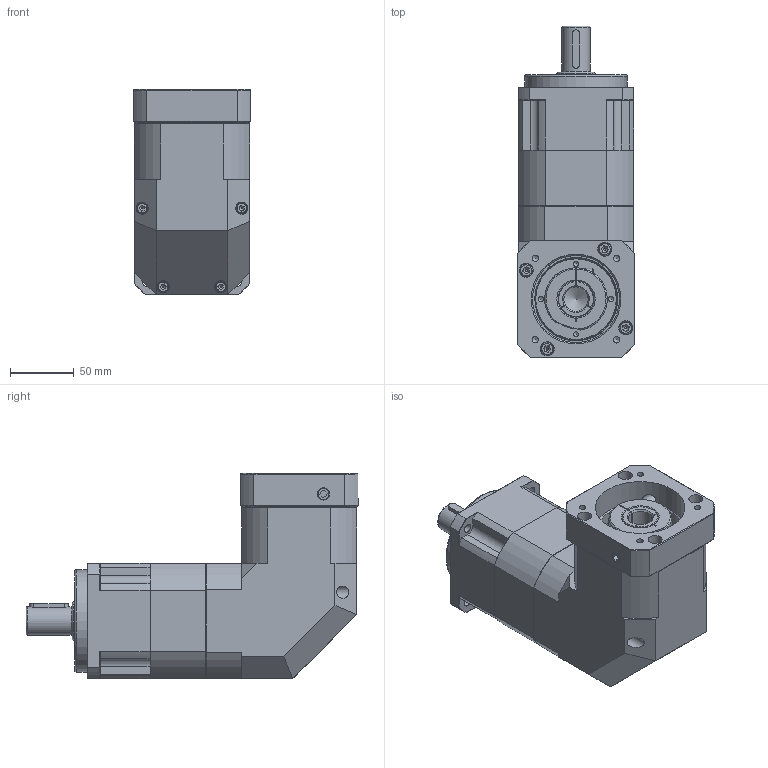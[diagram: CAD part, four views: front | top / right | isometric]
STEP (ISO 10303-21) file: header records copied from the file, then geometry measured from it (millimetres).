
FILE_DESCRIPTION((''),'2;1');
FILE_NAME('C:\Work\감속기 카다로그 도면\ATG Reducer(홈페이지)\PBL-H\STP\PBL90-H-2.stp','2014-05-27T14:50:43',('young'),(''),'Autodesk Inventor 2012','Autodesk Inventor 2012','');
FILE_SCHEMA(('AUTOMOTIVE_DESIGN { 1 0 10303 214 1 1 1 1 }'));
Length unit declared in the file: millimetre
Products named in the file (1): PBL90-H-2
Bounding box: 92 x 259.6 x 160.3 mm (x, y, z)
Volume: 1598010.7 mm3; surface area: 246099.2 mm2
Topology: 22 solids, 22 shells, 683 faces, 1645 edges, 1065 vertices
Faces by surface type: plane 376, cylinder 169, cone 101, torus 19, bspline 18
Full cylindrical faces by diameter (mm): 4 x4, 4.2 x4, 5 x12, 5.1 x1, 5.5 x8, 6 x9, 6.5 x1, 6.8 x9, 8 x1, 8.433 x2, 8.5 x4, 9.5 x6, 10 x5, 11 x4, 17 x1, 19 x1, 22 x1, 28.4 x1, 29.8 x2, 30 x2, 39 x1, 43 x1, 45 x3, 50 x2, 55 x2, 62 x1, 63.92 x18, 65 x2, 68 x1, 70 x1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
Entity records: 25359 total; most frequent: CARTESIAN_POINT 10665, DIRECTION 2956, ORIENTED_EDGE 2810, EDGE_CURVE 1405, AXIS2_PLACEMENT_3D 1128, VERTEX_POINT 1019, EDGE_LOOP 950, VECTOR 700
